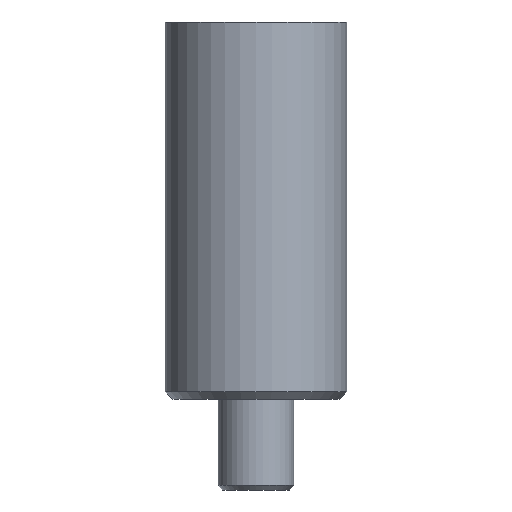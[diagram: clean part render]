
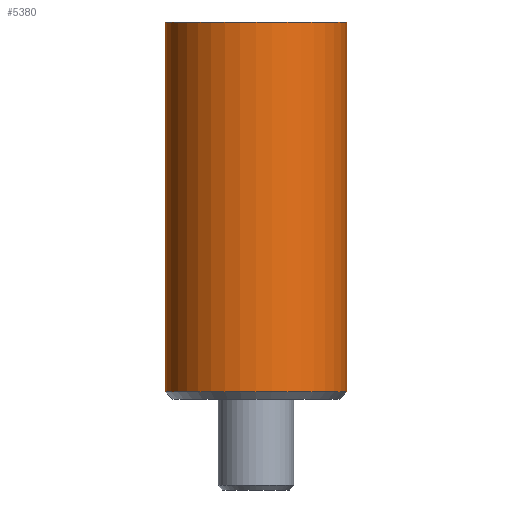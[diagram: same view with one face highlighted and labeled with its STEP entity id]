
A CAD part, front view. The second image highlights one B-rep face of the part: STEP entity #5380.
In plain terms, the highlighted cylindrical face has radius 6 mm (diameter 12 mm), a full revolution.
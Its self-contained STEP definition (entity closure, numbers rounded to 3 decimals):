
#711=CYLINDRICAL_SURFACE('',#5505,6.);
#995=FACE_OUTER_BOUND('',#1312,.T.);
#1312=EDGE_LOOP('',(#5031,#5032,#5033,#5034));
#1716=LINE('',#10988,#2124);
#2124=VECTOR('',#6107,6.);
#2149=CIRCLE('',#5495,6.);
#2151=CIRCLE('',#5503,6.);
#2671=VERTEX_POINT('',#10972);
#2673=VERTEX_POINT('',#10982);
#3462=EDGE_CURVE('',#2671,#2671,#2149,.T.);
#3464=EDGE_CURVE('',#2673,#2673,#2151,.T.);
#3467=EDGE_CURVE('',#2671,#2673,#1716,.T.);
#5031=ORIENTED_EDGE('',*,*,#3462,.F.);
#5032=ORIENTED_EDGE('',*,*,#3467,.T.);
#5033=ORIENTED_EDGE('',*,*,#3464,.F.);
#5034=ORIENTED_EDGE('',*,*,#3467,.F.);
#5380=ADVANCED_FACE('',(#995),#711,.T.);
#5495=AXIS2_PLACEMENT_3D('',#10973,#6084,#6085);
#5503=AXIS2_PLACEMENT_3D('',#10983,#6100,#6101);
#5505=AXIS2_PLACEMENT_3D('',#10987,#6105,#6106);
#6084=DIRECTION('center_axis',(0.,0.,1.));
#6085=DIRECTION('ref_axis',(1.,0.,0.));
#6100=DIRECTION('center_axis',(0.,0.,-1.));
#6101=DIRECTION('ref_axis',(1.,0.,0.));
#6105=DIRECTION('center_axis',(0.,0.,1.));
#6106=DIRECTION('ref_axis',(1.,0.,0.));
#6107=DIRECTION('',(0.,0.,-1.));
#10972=CARTESIAN_POINT('',(-6.,0.,25.));
#10973=CARTESIAN_POINT('Origin',(0.,0.,25.));
#10982=CARTESIAN_POINT('',(-6.,0.,0.5));
#10983=CARTESIAN_POINT('Origin',(0.,0.,0.5));
#10987=CARTESIAN_POINT('Origin',(0.,0.,0.));
#10988=CARTESIAN_POINT('',(-6.,0.,0.));
